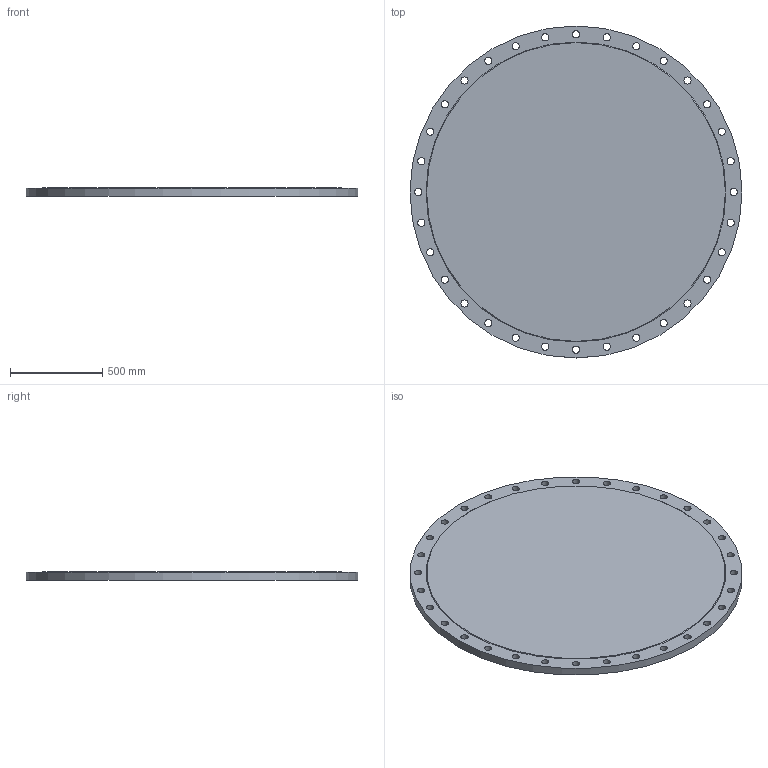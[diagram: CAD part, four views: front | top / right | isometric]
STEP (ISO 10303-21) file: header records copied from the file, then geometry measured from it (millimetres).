
FILE_DESCRIPTION(/* description */ (''),/* implementation_level */ '2;1');
FILE_NAME(/* name */ 'C:\Users\D\Documents\Inventor\HP\JIS\フランジ\水道用フランジF12\BL\ffws_bl_1500.stp',/* time_stamp */ '2024-08-28T10:08:48+09:00',/* author */ ('D'),/* organization */ (''),/* preprocessor_version */ 'ST-DEVELOPER v18',/* originating_system */ 'Autodesk Inventor 2020',/* authorisation */ '');
FILE_SCHEMA (('AUTOMOTIVE_DESIGN { 1 0 10303 214 3 1 1 }'));
Length unit declared in the file: millimetre
Products named in the file (1): ffws_pl_80
Bounding box: 1800 x 1800 x 48 mm (x, y, z)
Volume: 118997369.1 mm3; surface area: 5450163.1 mm2
Topology: 1 solids, 1 shells, 37 faces, 138 edges, 104 vertices
Faces by surface type: cylinder 33, plane 3, cone 1
Full cylindrical faces by diameter (mm): 39 x32, 1800 x1
Entity records: 1753 total; most frequent: DIRECTION 318, CARTESIAN_POINT 280, ORIENTED_EDGE 276, AXIS2_PLACEMENT_3D 142, EDGE_CURVE 138, CIRCLE 104, VERTEX_POINT 104, EDGE_LOOP 102
